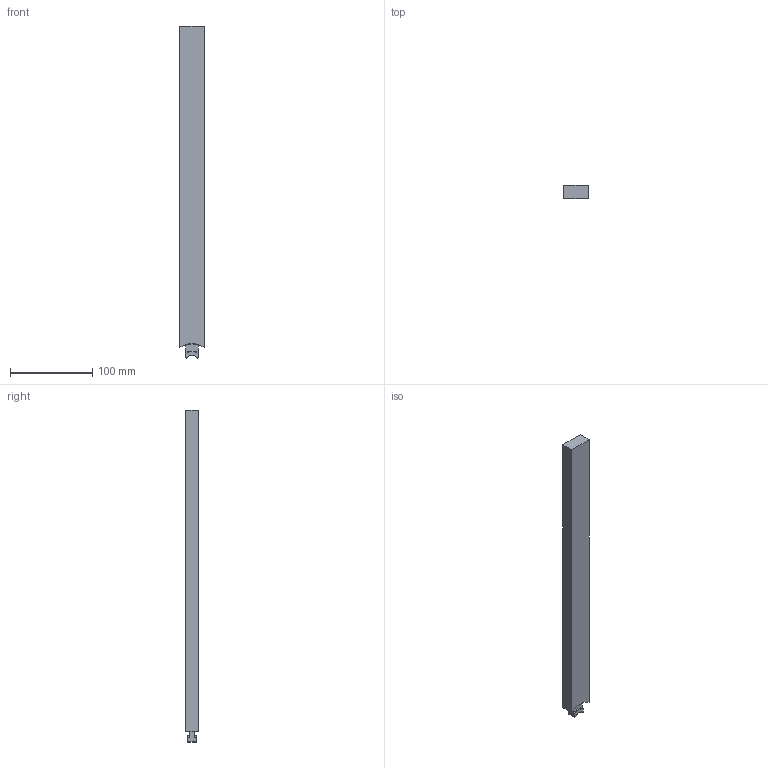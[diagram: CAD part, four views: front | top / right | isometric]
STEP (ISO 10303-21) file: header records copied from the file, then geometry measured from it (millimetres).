
FILE_DESCRIPTION (( 'STEP AP214' ), '1' );
FILE_NAME ('CBMM30X15L400.STEP', '2011-08-03T19:29:41', ( '' ), ( '' ), 'SwSTEP 2.0', 'SolidWorks 2010', '' );
FILE_SCHEMA (( 'AUTOMOTIVE_DESIGN' ));
Length unit declared in the file: millimetre
Products named in the file (1): CBMM30X15L400
Bounding box: 30.25 x 15.25 x 403 mm (x, y, z)
Volume: 180313.4 mm3; surface area: 37098.8 mm2
Topology: 1 solids, 1 shells, 37 faces, 102 edges, 68 vertices
Faces by surface type: torus 16, plane 11, cylinder 10
Entity records: 1292 total; most frequent: CARTESIAN_POINT 300, DIRECTION 208, ORIENTED_EDGE 204, EDGE_CURVE 102, AXIS2_PLACEMENT_3D 88, VERTEX_POINT 68, CIRCLE 50, EDGE_LOOP 38
